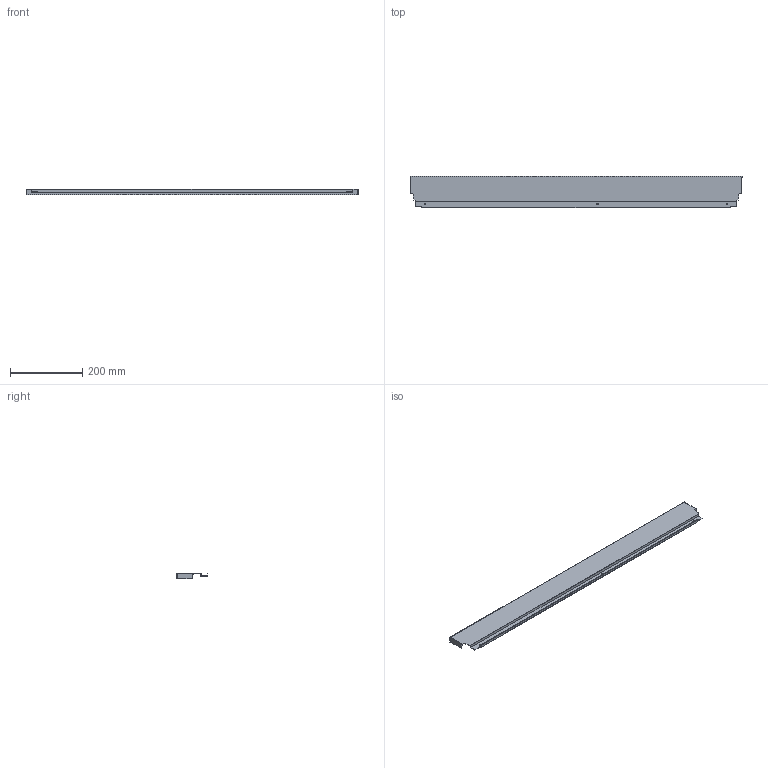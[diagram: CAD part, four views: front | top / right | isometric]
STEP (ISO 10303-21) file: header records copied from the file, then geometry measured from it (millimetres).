
FILE_DESCRIPTION (( 'STEP AP214' ), '1' );
FILE_NAME ('_DWD_XP Stahlrückwand_H86_KAB1000_S17.step', '2010-07-08T12:10:15', ( 'grass' ), ( '' ), 'SwSTEP 2.0', 'SolidWorks 2010', '' );
FILE_SCHEMA (( 'AUTOMOTIVE_DESIGN' ));
Length unit declared in the file: millimetre
Products named in the file (1): _DWD_XP Stahlrückwand_H86_KAB1000_S17
Bounding box: 917 x 85.79 x 16 mm (x, y, z)
Volume: 98397.8 mm3; surface area: 213431.7 mm2
Topology: 1 solids, 1 shells, 50 faces, 144 edges, 96 vertices
Faces by surface type: plane 44, cylinder 6
Entity records: 1666 total; most frequent: CARTESIAN_POINT 291, ORIENTED_EDGE 288, DIRECTION 258, EDGE_CURVE 144, VECTOR 132, LINE 132, VERTEX_POINT 96, AXIS2_PLACEMENT_3D 63
